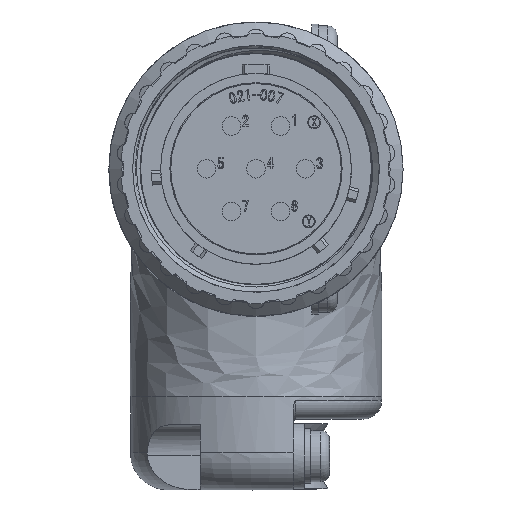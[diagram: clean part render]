
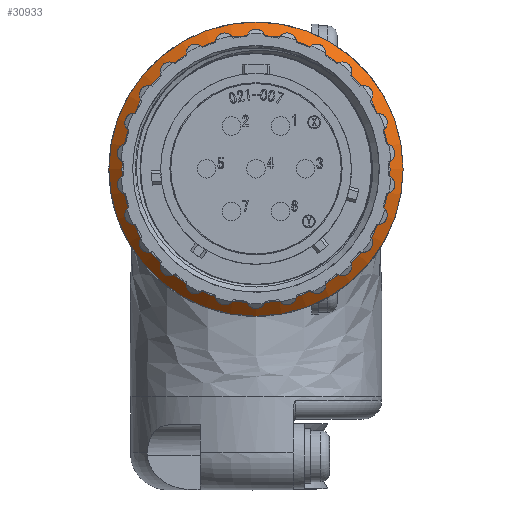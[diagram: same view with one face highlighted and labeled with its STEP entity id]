
A CAD part, top view. The second image highlights one B-rep face of the part: STEP entity #30933.
In plain terms, the highlighted conical face has half-angle 45 degrees and reference radius 14.4 mm.
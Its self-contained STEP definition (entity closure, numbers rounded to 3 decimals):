
#1780 = CARTESIAN_POINT ( 'NONE',  ( 0., 0., -20.73 ) ) ;
#3244 = CONICAL_SURFACE ( 'NONE', #31353, 14.4, 0.785 ) ;
#3451 = EDGE_LOOP ( 'NONE', ( #3931 ) ) ;
#3931 = ORIENTED_EDGE ( 'NONE', *, *, #34817, .F. ) ;
#5333 = VERTEX_POINT ( 'NONE', #18659 ) ;
#6486 = AXIS2_PLACEMENT_3D ( 'NONE', #22195, #15268, #42183 ) ;
#8514 = CARTESIAN_POINT ( 'NONE',  ( 15.8, 0., -22.13 ) ) ;
#9133 = EDGE_LOOP ( 'NONE', ( #16401 ) ) ;
#11818 = DIRECTION ( 'NONE',  ( 0., 0., 1. ) ) ;
#12488 = CIRCLE ( 'NONE', #38063, 14.4 ) ;
#15268 = DIRECTION ( 'NONE',  ( 0., 0., 1. ) ) ;
#16258 = FACE_OUTER_BOUND ( 'NONE', #9133, .T. ) ;
#16401 = ORIENTED_EDGE ( 'NONE', *, *, #38241, .T. ) ;
#18659 = CARTESIAN_POINT ( 'NONE',  ( 14.4, 0., -20.73 ) ) ;
#21226 = DIRECTION ( 'NONE',  ( 1., 0., 0. ) ) ;
#22111 = DIRECTION ( 'NONE',  ( -1., 0., 0. ) ) ;
#22195 = CARTESIAN_POINT ( 'NONE',  ( 0., 0., -22.13 ) ) ;
#25047 = FACE_BOUND ( 'NONE', #3451, .T. ) ;
#30933 = ADVANCED_FACE ( 'NONE', ( #25047, #16258 ), #3244, .T. ) ;
#31294 = VERTEX_POINT ( 'NONE', #8514 ) ;
#31353 = AXIS2_PLACEMENT_3D ( 'NONE', #35440, #42112, #22111 ) ;
#34817 = EDGE_CURVE ( 'NONE', #5333, #5333, #12488, .T. ) ;
#35440 = CARTESIAN_POINT ( 'NONE',  ( 0., 0., -20.73 ) ) ;
#38063 = AXIS2_PLACEMENT_3D ( 'NONE', #1780, #11818, #21226 ) ;
#38241 = EDGE_CURVE ( 'NONE', #31294, #31294, #39758, .T. ) ;
#39758 = CIRCLE ( 'NONE', #6486, 15.8 ) ;
#42112 = DIRECTION ( 'NONE',  ( 0., 0., -1. ) ) ;
#42183 = DIRECTION ( 'NONE',  ( 1., 0., 0. ) ) ;
